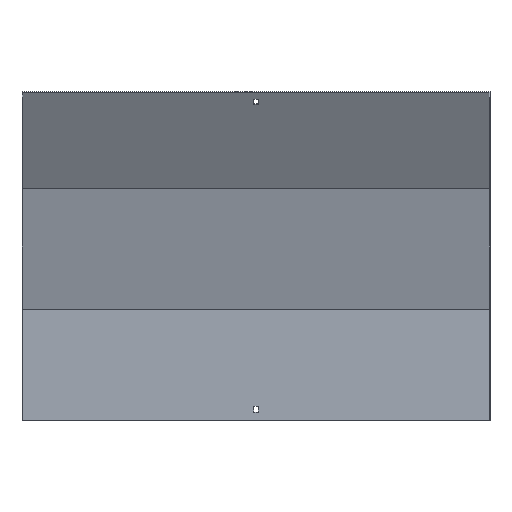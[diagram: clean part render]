
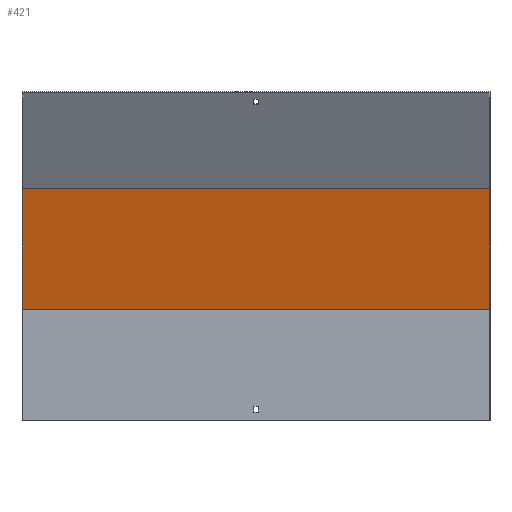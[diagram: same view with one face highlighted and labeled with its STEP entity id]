
A CAD part, front view. The second image highlights one B-rep face of the part: STEP entity #421.
In plain terms, the highlighted planar face has unit normal (0, -0.966, -0.259).
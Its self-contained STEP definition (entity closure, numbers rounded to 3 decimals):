
#16 = AXIS2_PLACEMENT_3D ( 'NONE', #802, #741, #74 ) ;
#48 = DIRECTION ( 'NONE',  ( 0., -0.259, 0.966 ) ) ;
#68 = VERTEX_POINT ( 'NONE', #354 ) ;
#74 = DIRECTION ( 'NONE',  ( 0., 0.259, -0.966 ) ) ;
#105 = CARTESIAN_POINT ( 'NONE',  ( 351.5, -30.383, 348.871 ) ) ;
#116 = VERTEX_POINT ( 'NONE', #200 ) ;
#146 = VECTOR ( 'NONE', #48, 1000. ) ;
#171 = VECTOR ( 'NONE', #240, 1000. ) ;
#172 = LINE ( 'NONE', #105, #171 ) ;
#200 = CARTESIAN_POINT ( 'NONE',  ( -350., 18.5, 166.436 ) ) ;
#202 = EDGE_CURVE ( 'NONE', #243, #589, #172, .T. ) ;
#240 = DIRECTION ( 'NONE',  ( -1., 0., 0. ) ) ;
#243 = VERTEX_POINT ( 'NONE', #550 ) ;
#270 = ORIENTED_EDGE ( 'NONE', *, *, #730, .F. ) ;
#318 = CARTESIAN_POINT ( 'NONE',  ( -350., 58.87, 15.774 ) ) ;
#354 = CARTESIAN_POINT ( 'NONE',  ( 350., 18.5, 166.436 ) ) ;
#360 = ORIENTED_EDGE ( 'NONE', *, *, #202, .T. ) ;
#379 = CARTESIAN_POINT ( 'NONE',  ( 350., 58.87, 15.774 ) ) ;
#388 = LINE ( 'NONE', #379, #436 ) ;
#411 = CARTESIAN_POINT ( 'NONE',  ( -350., -30.383, 348.871 ) ) ;
#421 = ADVANCED_FACE ( 'NONE', ( #544 ), #606, .T. ) ;
#436 = VECTOR ( 'NONE', #637, 1000. ) ;
#443 = LINE ( 'NONE', #646, #605 ) ;
#465 = ORIENTED_EDGE ( 'NONE', *, *, #797, .F. ) ;
#467 = EDGE_LOOP ( 'NONE', ( #270, #465, #510, #360 ) ) ;
#510 = ORIENTED_EDGE ( 'NONE', *, *, #852, .T. ) ;
#520 = DIRECTION ( 'NONE',  ( -1., 0., 0. ) ) ;
#544 = FACE_OUTER_BOUND ( 'NONE', #467, .T. ) ;
#550 = CARTESIAN_POINT ( 'NONE',  ( 350., -30.383, 348.871 ) ) ;
#589 = VERTEX_POINT ( 'NONE', #411 ) ;
#605 = VECTOR ( 'NONE', #520, 1000. ) ;
#606 = PLANE ( 'NONE',  #16 ) ;
#637 = DIRECTION ( 'NONE',  ( 0., -0.259, 0.966 ) ) ;
#646 = CARTESIAN_POINT ( 'NONE',  ( 351.5, 18.5, 166.436 ) ) ;
#730 = EDGE_CURVE ( 'NONE', #116, #589, #787, .T. ) ;
#741 = DIRECTION ( 'NONE',  ( 0., -0.966, -0.259 ) ) ;
#787 = LINE ( 'NONE', #318, #146 ) ;
#797 = EDGE_CURVE ( 'NONE', #68, #116, #443, .T. ) ;
#802 = CARTESIAN_POINT ( 'NONE',  ( 351.5, 17.87, 168.788 ) ) ;
#852 = EDGE_CURVE ( 'NONE', #68, #243, #388, .T. ) ;
